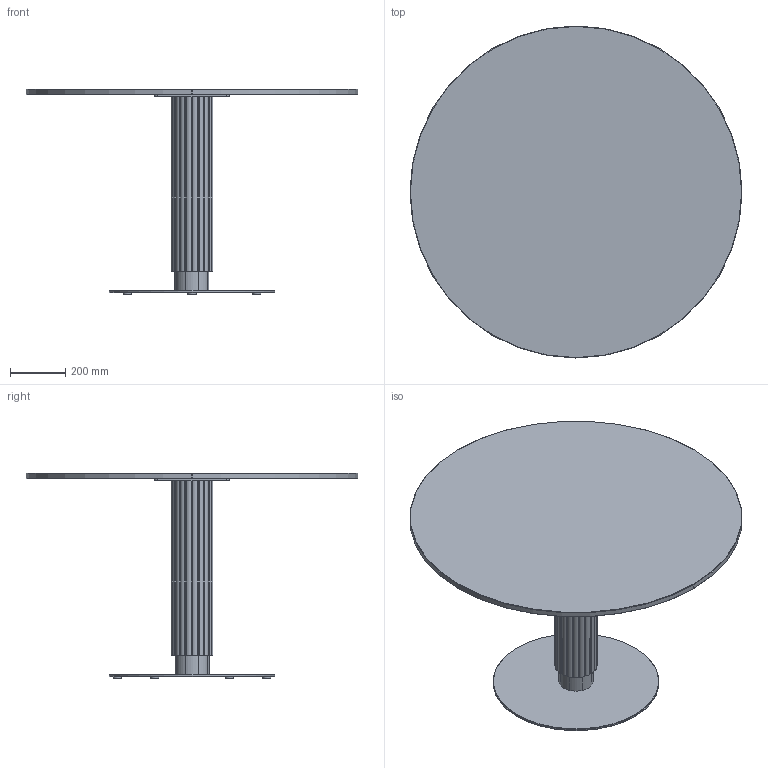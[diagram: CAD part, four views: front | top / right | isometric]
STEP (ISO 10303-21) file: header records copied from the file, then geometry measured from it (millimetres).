
FILE_DESCRIPTION( ('This file contains a STEP AP42 implementation' ,'as created by ZW3D STEP Interface translator.') ,'2;1' );
FILE_NAME( 'God - B_Rond - F1 - M1 - 1200 x 1200 x 750.stp' ,'24 912.113128', (''), ('ZWCAD Software Co.'), 'Version 1.0', 'ZW3D to STEP translator', '' );
FILE_SCHEMA(('AUTOMOTIVE_DESIGN { 1 0 10303 214 1 1 1 1 }'));
Length unit declared in the file: millimetre
Products named in the file (15): 0; PIED BISTROT PARAMETRIQUE_; CROIX ACIER 370 V.02_; CRX-X370-02_; SOCLE ACIER C Ø600 V.02_; SCL-D600-02_; PLA-R30A-01_; PLA-R30A-01; COLONNE ACIER Ø48.5 V.02_; TUB-D048-02_; PLA-R48A-01_; Colonne GODRON H700_; WUERTH 0276063020 Euro-screw 6.3x2 Verzinkt_; PLATEAU BISTROT PARAMETRIQUE_; insert_m6_13_
Assembly tree (25 placements, depth 3):
  0
  PIED BISTROT PARAMETRIQUE_
    CROIX ACIER 370 V.02_
      CRX-X370-02_
    SOCLE ACIER C Ø600 V.02_
      SCL-D600-02_
      PLA-R30A-01_
      PLA-R30A-01  x5
    COLONNE ACIER Ø48.5 V.02_
      TUB-D048-02_
      PLA-R48A-01_  x2
    Colonne GODRON H700_
    WUERTH 0276063020 Euro-screw 6.3x2 Verzinkt_
    PLATEAU BISTROT PARAMETRIQUE_
      insert_m6_13_  x8
Bounding box: 1200 x 1200 x 744 mm (x, y, z)
Volume: 35950154.4 mm3; surface area: 4331694.7 mm2
Topology: 29 solids, 29 shells, 656 faces, 1625 edges, 1042 vertices
Faces by surface type: plane 294, cylinder 193, bspline 121, cone 47, torus 1
Full cylindrical faces by diameter (mm): 4.88 x1, 6 x8, 6.3 x1, 8 x47, 12 x2, 14 x2, 30 x6, 44.5 x3, 48.5 x1, 600 x1
Entity records: 16234 total; most frequent: CARTESIAN_POINT 4039, DIRECTION 2249, ORIENTED_EDGE 2240, EDGE_CURVE 1120, AXIS2_PLACEMENT_3D 800, VERTEX_POINT 728, VECTOR 649, LINE 649
